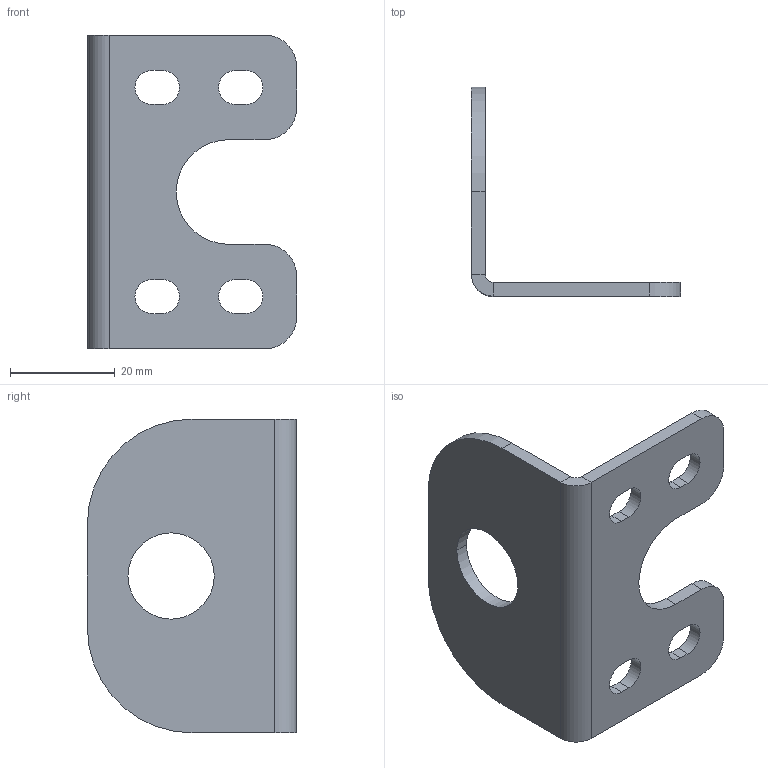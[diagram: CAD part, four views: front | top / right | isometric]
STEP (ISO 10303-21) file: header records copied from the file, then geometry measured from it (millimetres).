
FILE_DESCRIPTION (( 'STEP AP203' ), '1' );
FILE_NAME ('02.10044.STEP', '2012-10-08T17:30:25', ( 'Ricardo' ), ( '' ), 'SwSTEP 2.0', 'SolidWorks 2012', '' );
FILE_SCHEMA (( 'CONFIG_CONTROL_DESIGN' ));
Length unit declared in the file: millimetre
Products named in the file (1): 02.10044
Bounding box: 40 x 40 x 60 mm (x, y, z)
Volume: 9407.6 mm3; surface area: 8244.2 mm2
Topology: 1 solids, 1 shells, 42 faces, 112 edges, 72 vertices
Faces by surface type: plane 23, cylinder 19
Entity records: 1407 total; most frequent: DIRECTION 236, CARTESIAN_POINT 227, ORIENTED_EDGE 224, EDGE_CURVE 112, AXIS2_PLACEMENT_3D 81, VECTOR 74, LINE 74, VERTEX_POINT 72
